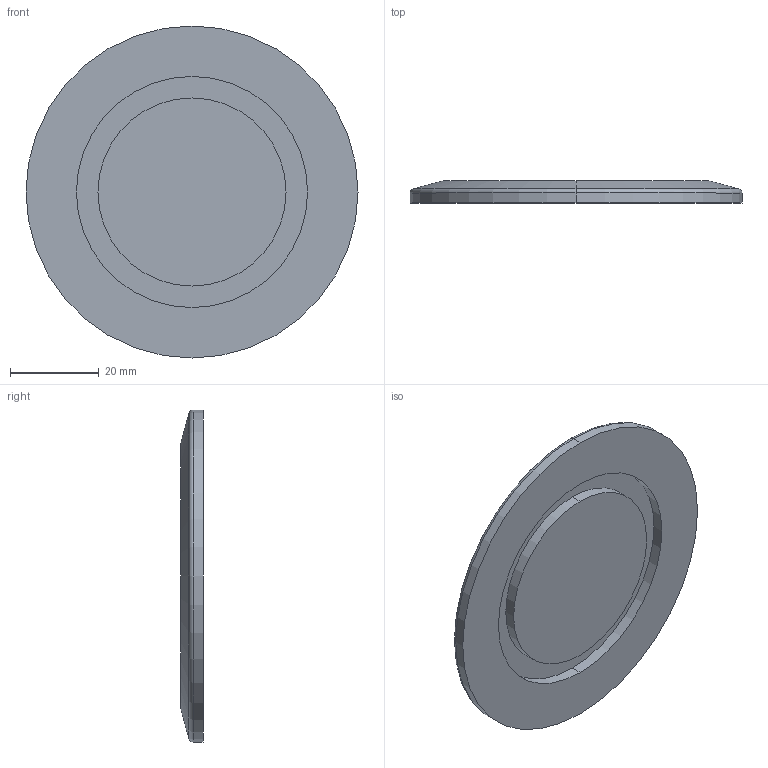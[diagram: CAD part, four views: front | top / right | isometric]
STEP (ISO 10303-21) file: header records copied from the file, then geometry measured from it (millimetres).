
FILE_DESCRIPTION (( 'STEP AP214' ), '1' );
FILE_NAME ('W3BF50.STEP', '2019-03-25T10:38:05', ( '' ), ( '' ), 'SwSTEP 2.0', 'SolidWorks 2018', '' );
FILE_SCHEMA (( 'AUTOMOTIVE_DESIGN' ));
Length unit declared in the file: millimetre
Products named in the file (1): W3BF50
Bounding box: 75 x 5 x 75 mm (x, y, z)
Volume: 18617.2 mm3; surface area: 10288.7 mm2
Topology: 1 solids, 1 shells, 14 faces, 26 edges, 16 vertices
Faces by surface type: cylinder 6, plane 4, torus 2, cone 2
Entity records: 390 total; most frequent: DIRECTION 74, CARTESIAN_POINT 57, ORIENTED_EDGE 52, AXIS2_PLACEMENT_3D 33, EDGE_CURVE 26, CIRCLE 18, EDGE_LOOP 16, VERTEX_POINT 16
